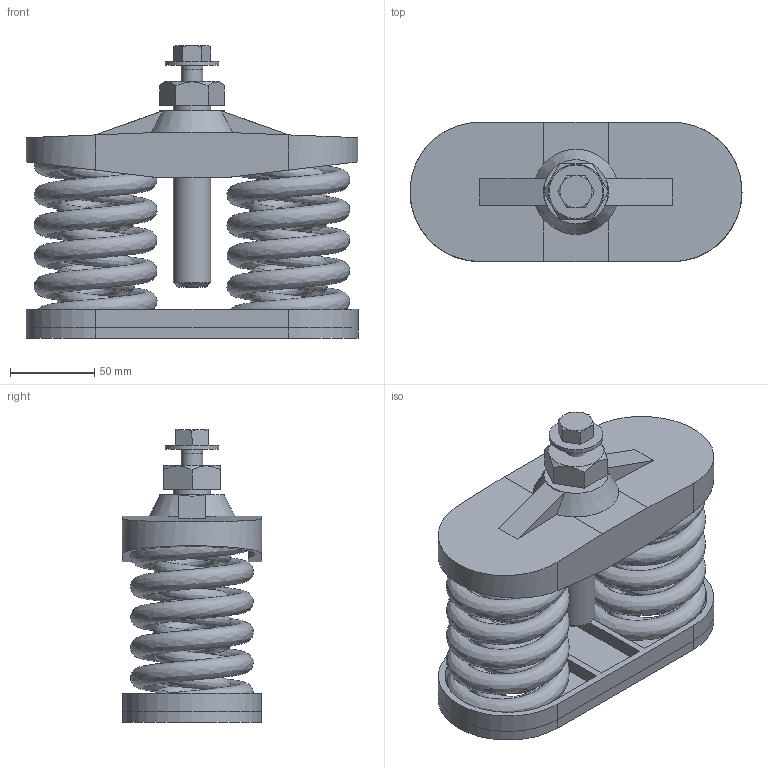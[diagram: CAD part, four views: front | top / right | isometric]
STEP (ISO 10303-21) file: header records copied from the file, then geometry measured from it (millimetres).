
FILE_DESCRIPTION(/* description */ (''),/* implementation_level */ '2;1');
FILE_NAME(/* name */ 'C:\2014_Work\SLF2.stp',/* time_stamp */ '2014-05-07T11:28:26-04:00',/* author */ ('mleuck'),/* organization */ (''),/* preprocessor_version */ 'ST-DEVELOPER v15.2',/* originating_system */ 'Autodesk Inventor 2014',/* authorisation */ '');
FILE_SCHEMA (('AUTOMOTIVE_DESIGN { 1 0 10303 214 3 1 1 }'));
Length unit declared in the file: inch
Products named in the file (10): C-1841-2 SLF-2 BASE PLATE; C-1841-2 SLF-2 FLATBACK; C-1841-2 TOP PLATE SLF 2; A-19773-1 SLF-B ADJUSTMENT BOLT 4250 x 08750; ANSI_ASME B18.2.1 - 1_2-13 UNC - 1.25(2); ANSI B18.22.1 - 1_2 - Regular - Type B; SLF-2 WOS ASSEMBLY PER A-16398-1; SPRING C-1350 FH (YELLOW); SPRING Z-1035 FH (GREEN); SLF-2-4770
Bounding box: 196.85 x 82.55 x 173.71 mm (x, y, z)
Volume: 752192.4 mm3; surface area: 284213.4 mm2
Topology: 10 solids, 10 shells, 132 faces, 297 edges, 191 vertices
Faces by surface type: plane 88, cylinder 22, cone 15, bspline 4, torus 3
Full cylindrical faces by diameter (mm): 10.592 x1, 12.7 x1, 13.487 x1, 19.05 x1, 19.177 x1, 22.225 x1, 28.575 x4, 31.75 x1, 38.1 x1
Entity records: 7373 total; most frequent: CARTESIAN_POINT 4525, DIRECTION 574, ORIENTED_EDGE 500, EDGE_CURVE 250, AXIS2_PLACEMENT_3D 219, VERTEX_POINT 170, EDGE_LOOP 160, LINE 136
